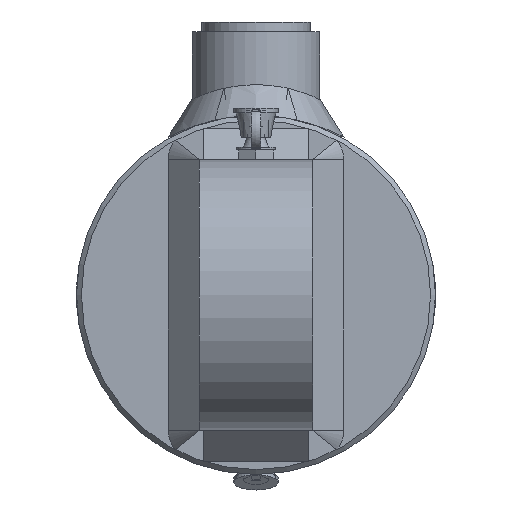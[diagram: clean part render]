
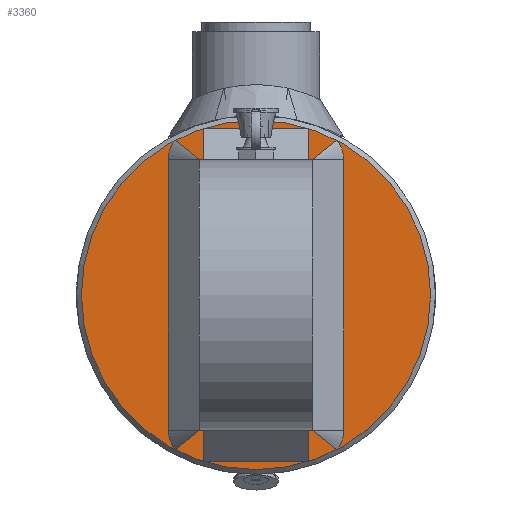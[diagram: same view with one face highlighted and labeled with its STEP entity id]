
A CAD part, left-side view. The second image highlights one B-rep face of the part: STEP entity #3360.
In plain terms, the highlighted planar face has unit normal (-1, 0, 0).
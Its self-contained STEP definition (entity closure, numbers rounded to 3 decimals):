
#3360 = ADVANCED_FACE( '', ( #7760 ), #7761, .T. );
#7760 = FACE_OUTER_BOUND( '', #9812, .T. );
#7761 = PLANE( '', #9813 );
#9812 = EDGE_LOOP( '', ( #10822 ) );
#9813 = AXIS2_PLACEMENT_3D( '', #10823, #10824, #10825 );
#10822 = ORIENTED_EDGE( '', *, *, #12115, .T. );
#10823 = CARTESIAN_POINT( '', ( -12., 0., 0. ) );
#10824 = DIRECTION( '', ( -1., 0., 0. ) );
#10825 = DIRECTION( '', ( 0., -1., 0. ) );
#12115 = EDGE_CURVE( '', #14747, #14747, #14748, .T. );
#14747 = VERTEX_POINT( '', #16029 );
#14748 = CIRCLE( '', #16030, 35.5 );
#16029 = CARTESIAN_POINT( '', ( -12., -35.5, 0. ) );
#16030 = AXIS2_PLACEMENT_3D( '', #16297, #16298, #16299 );
#16297 = CARTESIAN_POINT( '', ( -12., 0., 0. ) );
#16298 = DIRECTION( '', ( -1., 0., 0. ) );
#16299 = DIRECTION( '', ( 0., -1., 0. ) );
